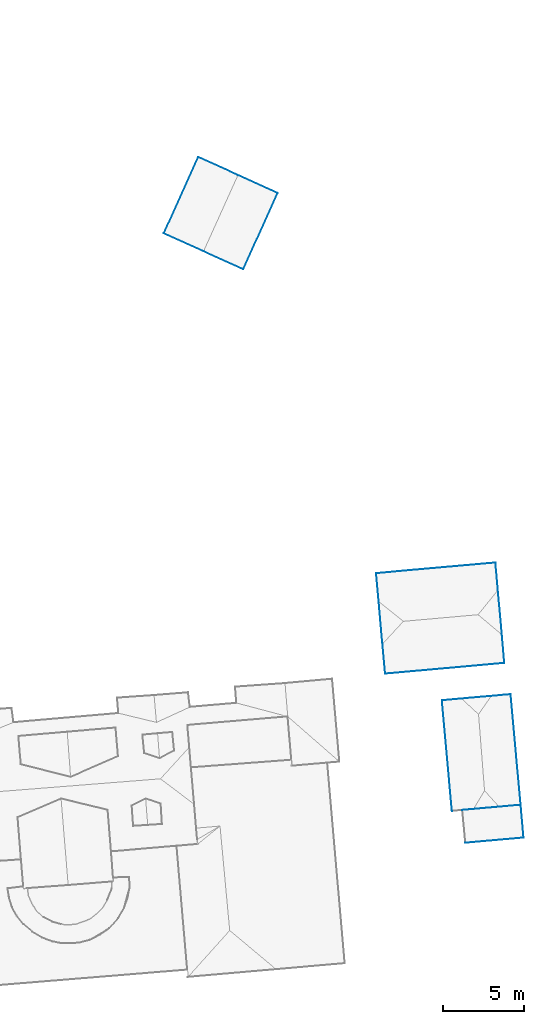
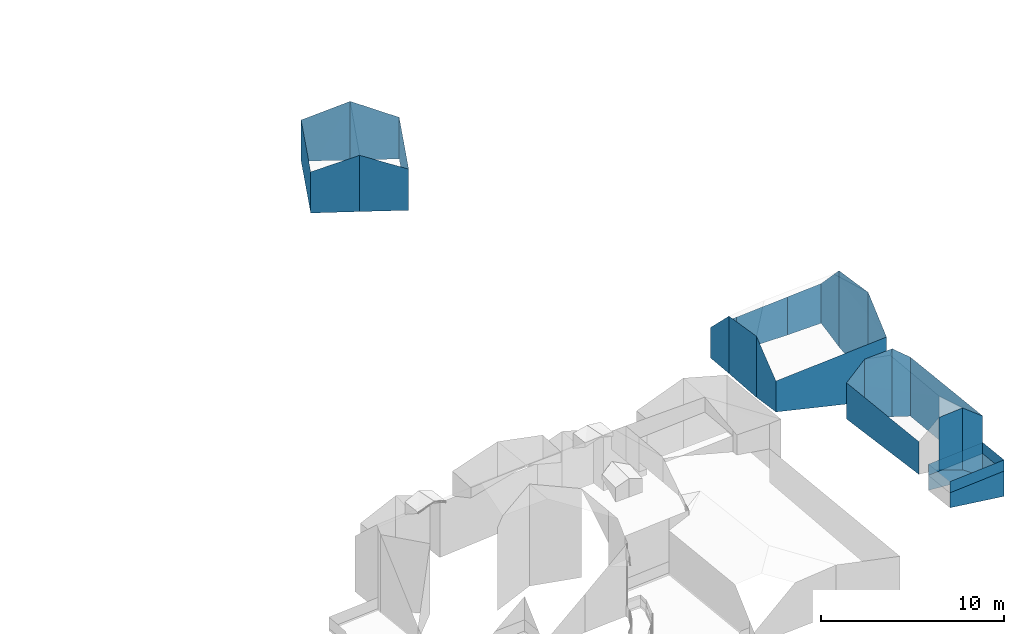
# Not in any storey, part 24 of 59: 32 walls.
"""IFC4 building model written with IfcOpenShell, lengths in metres."""

from ifc_helpers import new_model, entity, si_unit, converted_unit, origin, place, context, subcontext, project, spatial, face_set, surface_model, element, save


model = new_model("IFC4")

# Units and contexts
model_context = context("Model", 3, precision=1e-05, world=origin())
body_context = subcontext(model_context, "Body", "Model", "MODEL_VIEW")
ifc_project = project(units=[converted_unit("PLANEANGLEUNIT", "DEGREE", entity("IfcRatioMeasure", 0.0174532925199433), si_unit("PLANEANGLEUNIT", "RADIAN"), dimensions=[0, 0, 0, 0, 0, 0, 0]), si_unit("AREAUNIT", "SQUARE_METRE"), si_unit("LENGTHUNIT", "METRE")], contexts=[model_context])

# Site, building
site_placement = place(None, origin())
site = spatial("IfcSite", under=ifc_project, at=site_placement, Name="_site")
building_1_placement = place(site_placement, origin())
building_1 = spatial("IfcBuilding", under=site, at=building_1_placement, Name="_building")

# Walls
wall_1_placement = place(building_1_placement, origin())
element("IfcWall", 1, at=wall_1_placement, inside=building_1, Name="Wall", PredefinedType="NOTDEFINED", context=body_context, shape_type="SurfaceModel", body=[
    surface_model("IfcFaceBasedSurfaceModel", [(257.48, 105.311, 228.02), (257.31, 107.15, 229.95), (257.31, 107.15, 225.866), (257.48, 105.311, 225.948)], [face_set([[[0, 1, 2, 3]]])]),
])
wall_2_placement = place(building_1_placement, origin())
element("IfcWall", 2, at=wall_2_placement, inside=building_1, Name="Wall", PredefinedType="NOTDEFINED", context=body_context, shape_type="SurfaceModel", body=[
    surface_model("IfcFaceBasedSurfaceModel", [(257.31, 107.15, 229.95), (257.08, 109.77, 229.79), (257.08, 109.77, 225.959), (257.31, 107.15, 225.866)], [face_set([[[0, 1, 2, 3]]])]),
])
wall_3_placement = place(building_1_placement, origin())
element("IfcWall", 3, at=wall_3_placement, inside=building_1, Name="Wall", PredefinedType="NOTDEFINED", context=body_context, shape_type="SurfaceModel", body=[
    surface_model("IfcFaceBasedSurfaceModel", [(257.08, 109.77, 229.79), (256.92, 111.52, 228.02), (256.92, 111.52, 226.002), (257.08, 109.77, 225.959)], [face_set([[[0, 1, 2, 3]]])]),
])
wall_4_placement = place(building_1_placement, origin())
element("IfcWall", 4, at=wall_4_placement, inside=building_1, Name="Wall", PredefinedType="NOTDEFINED", context=body_context, shape_type="SurfaceModel", body=[
    surface_model("IfcFaceBasedSurfaceModel", [(264.3, 112.18, 227.98), (264.45, 110.48, 229.82), (264.45, 110.48, 224.714), (264.3, 112.18, 225.324)], [face_set([[[0, 1, 2, 3]]])]),
])
wall_5_placement = place(building_1_placement, origin())
element("IfcWall", 5, at=wall_5_placement, inside=building_1, Name="Wall", PredefinedType="NOTDEFINED", context=body_context, shape_type="SurfaceModel", body=[
    surface_model("IfcFaceBasedSurfaceModel", [(264.45, 110.48, 229.82), (264.7, 107.721, 229.95), (264.7, 107.721, 224.029), (264.45, 110.48, 224.714)], [face_set([[[0, 1, 2, 3]]])]),
])
wall_6_placement = place(building_1_placement, origin())
element("IfcWall", 6, at=wall_6_placement, inside=building_1, Name="Wall", PredefinedType="NOTDEFINED", context=body_context, shape_type="SurfaceModel", body=[
    surface_model("IfcFaceBasedSurfaceModel", [(264.7, 107.721, 229.95), (264.85, 105.971, 227.98), (264.85, 105.971, 223.793), (264.7, 107.721, 224.029)], [face_set([[[0, 1, 2, 3]]])]),
])
wall_7_placement = place(building_1_placement, origin())
element("IfcWall", 7, at=wall_7_placement, inside=building_1, Name="Wall", PredefinedType="NOTDEFINED", context=body_context, shape_type="SurfaceModel", body=[
    surface_model("IfcFaceBasedSurfaceModel", [(256.92, 111.52, 228.02), (258.66, 111.68, 228.01), (258.66, 111.68, 225.699), (256.92, 111.52, 226.002)], [face_set([[[0, 1, 2, 3]]])]),
])
wall_8_placement = place(building_1_placement, origin())
element("IfcWall", 8, at=wall_8_placement, inside=building_1, Name="Wall", PredefinedType="NOTDEFINED", context=body_context, shape_type="SurfaceModel", body=[
    surface_model("IfcFaceBasedSurfaceModel", [(258.66, 111.68, 228.01), (262.05, 111.98, 227.99), (262.05, 111.98, 225.441), (258.66, 111.68, 225.699)], [face_set([[[0, 1, 2, 3]]])]),
])
wall_9_placement = place(building_1_placement, origin())
element("IfcWall", 9, at=wall_9_placement, inside=building_1, Name="Wall", PredefinedType="NOTDEFINED", context=body_context, shape_type="SurfaceModel", body=[
    surface_model("IfcFaceBasedSurfaceModel", [(262.05, 111.98, 227.99), (264.3, 112.18, 227.98), (264.3, 112.18, 225.324), (262.05, 111.98, 225.441)], [face_set([[[0, 1, 2, 3]]])]),
])
wall_10_placement = place(building_1_placement, origin())
element("IfcWall", 10, at=wall_10_placement, inside=building_1, Name="Wall", PredefinedType="NOTDEFINED", context=body_context, shape_type="SurfaceModel", body=[
    surface_model("IfcFaceBasedSurfaceModel", [(264.85, 105.971, 227.98), (257.48, 105.311, 228.02), (257.48, 105.311, 225.948), (264.85, 105.971, 223.793)], [face_set([[[0, 1, 2, 3]]])]),
])

# Building
building_2_placement = place(site_placement, origin())
building_2 = spatial("IfcBuilding", under=site, at=building_2_placement, Name="_building")

# Walls
wall_11_placement = place(building_2_placement, origin())
element("IfcWall", 11, at=wall_11_placement, inside=building_2, Name="Wall", PredefinedType="NOTDEFINED", context=body_context, shape_type="SurfaceModel", body=[
    surface_model("IfcFaceBasedSurfaceModel", [(260.99, 103.66, 227.67), (262.2, 103.77, 228.76), (262.2, 103.77, 224.806), (260.99, 103.66, 225.248)], [face_set([[[0, 1, 2, 3]]])]),
])
wall_12_placement = place(building_2_placement, origin())
element("IfcWall", 12, at=wall_12_placement, inside=building_2, Name="Wall", PredefinedType="NOTDEFINED", context=body_context, shape_type="SurfaceModel", body=[
    surface_model("IfcFaceBasedSurfaceModel", [(264.52, 97.08, 228.75), (262.94, 96.939, 228.74), (262.94, 96.939, 225.251), (264.52, 97.08, 224.607)], [face_set([[[0, 1, 2, 3]]])]),
])
wall_13_placement = place(building_2_placement, origin())
element("IfcWall", 13, at=wall_13_placement, inside=building_2, Name="Wall", PredefinedType="NOTDEFINED", context=body_context, shape_type="SurfaceModel", body=[
    surface_model("IfcFaceBasedSurfaceModel", [(262.2, 103.77, 228.76), (264.03, 103.93, 228.72), (264.03, 103.93, 224.17), (262.2, 103.77, 224.806)], [face_set([[[0, 1, 2, 3]]])]),
])
wall_14_placement = place(building_2_placement, origin())
element("IfcWall", 14, at=wall_14_placement, inside=building_2, Name="Wall", PredefinedType="NOTDEFINED", context=body_context, shape_type="SurfaceModel", body=[
    surface_model("IfcFaceBasedSurfaceModel", [(261.61, 96.82, 227.67), (260.99, 103.66, 227.67), (260.99, 103.66, 225.248), (261.61, 96.82, 225.482)], [face_set([[[0, 1, 2, 3]]])]),
])
wall_15_placement = place(building_2_placement, origin())
element("IfcWall", 15, at=wall_15_placement, inside=building_2, Name="Wall", PredefinedType="NOTDEFINED", context=body_context, shape_type="SurfaceModel", body=[
    surface_model("IfcFaceBasedSurfaceModel", [(264.03, 103.93, 228.72), (265.24, 104.039, 227.67), (265.24, 104.039, 223.721), (264.03, 103.93, 224.17)], [face_set([[[0, 1, 2, 3]]])]),
])
wall_16_placement = place(building_2_placement, origin())
element("IfcWall", 16, at=wall_16_placement, inside=building_2, Name="Wall", PredefinedType="NOTDEFINED", context=body_context, shape_type="SurfaceModel", body=[
    surface_model("IfcFaceBasedSurfaceModel", [(265.86, 97.199, 227.67), (264.52, 97.08, 228.75), (264.52, 97.08, 224.607), (265.86, 97.199, 223.647)], [face_set([[[0, 1, 2, 3]]])]),
])
wall_17_placement = place(building_2_placement, origin())
element("IfcWall", 17, at=wall_17_placement, inside=building_2, Name="Wall", PredefinedType="NOTDEFINED", context=body_context, shape_type="SurfaceModel", body=[
    surface_model("IfcFaceBasedSurfaceModel", [(265.24, 104.039, 227.67), (265.86, 97.199, 227.67), (265.86, 97.199, 223.647), (265.24, 104.039, 223.721)], [face_set([[[0, 1, 2, 3]]])]),
])
wall_18_placement = place(building_2_placement, origin())
element("IfcWall", 18, at=wall_18_placement, inside=building_2, Name="Wall", PredefinedType="NOTDEFINED", context=body_context, shape_type="SurfaceModel", body=[
    surface_model("IfcFaceBasedSurfaceModel", [(262.25, 96.881, 225.15), (265.86, 97.199, 225.15), (265.86, 97.199, 225.9), (262.25, 96.881, 225.9)], [face_set([[[0, 1, 2, 3]]])]),
])
wall_19_placement = place(building_2_placement, origin())
element("IfcWall", 19, at=wall_19_placement, inside=building_2, Name="Wall", PredefinedType="NOTDEFINED", context=body_context, shape_type="SurfaceModel", body=[
    surface_model("IfcFaceBasedSurfaceModel", [(266.04, 95.17, 225.15), (262.44, 94.85, 225.15), (262.44, 94.85, 225.9), (266.04, 95.17, 225.9)], [face_set([[[0, 1, 2, 3]]])]),
])
wall_20_placement = place(building_2_placement, origin())
element("IfcWall", 20, at=wall_20_placement, inside=building_2, Name="Wall", PredefinedType="NOTDEFINED", context=body_context, shape_type="SurfaceModel", body=[
    surface_model("IfcFaceBasedSurfaceModel", [(265.86, 97.199, 225.15), (266.04, 95.17, 225.15), (266.04, 95.17, 225.9), (265.86, 97.199, 225.9)], [face_set([[[0, 1, 2, 3]]])]),
])
wall_21_placement = place(building_2_placement, origin())
element("IfcWall", 21, at=wall_21_placement, inside=building_2, Name="Wall", PredefinedType="NOTDEFINED", context=body_context, shape_type="SurfaceModel", body=[
    surface_model("IfcFaceBasedSurfaceModel", [(262.25, 96.881, 225.15), (265.86, 97.199, 225.15), (265.86, 97.199, 225.9), (262.25, 96.881, 225.9)], [face_set([[[0, 1, 2, 3]]])]),
])
wall_22_placement = place(building_2_placement, origin())
element("IfcWall", 22, at=wall_22_placement, inside=building_2, Name="Wall", PredefinedType="NOTDEFINED", context=body_context, shape_type="SurfaceModel", body=[
    surface_model("IfcFaceBasedSurfaceModel", [(266.04, 95.17, 225.15), (262.44, 94.85, 225.15), (262.44, 94.85, 225.9), (266.04, 95.17, 225.9)], [face_set([[[0, 1, 2, 3]]])]),
])
wall_23_placement = place(building_2_placement, origin())
element("IfcWall", 23, at=wall_23_placement, inside=building_2, Name="Wall", PredefinedType="NOTDEFINED", context=body_context, shape_type="SurfaceModel", body=[
    surface_model("IfcFaceBasedSurfaceModel", [(265.86, 97.199, 225.15), (266.04, 95.17, 225.15), (266.04, 95.17, 225.9), (265.86, 97.199, 225.9)], [face_set([[[0, 1, 2, 3]]])]),
])
wall_24_placement = place(building_2_placement, origin())
element("IfcWall", 24, at=wall_24_placement, inside=building_2, Name="Wall", PredefinedType="NOTDEFINED", context=body_context, shape_type="SurfaceModel", body=[
    surface_model("IfcFaceBasedSurfaceModel", [(262.25, 96.881, 225.15), (265.86, 97.199, 225.15), (265.86, 97.199, 223.647), (262.25, 96.881, 224.15)], [face_set([[[0, 1, 2, 3]]])]),
])
wall_25_placement = place(building_2_placement, origin())
element("IfcWall", 25, at=wall_25_placement, inside=building_2, Name="Wall", PredefinedType="NOTDEFINED", context=body_context, shape_type="SurfaceModel", body=[
    surface_model("IfcFaceBasedSurfaceModel", [(266.04, 95.17, 225.15), (262.44, 94.85, 225.15), (262.44, 94.85, 224.15), (266.04, 95.17, 223.464)], [face_set([[[0, 1, 2, 3]]])]),
])
wall_26_placement = place(building_2_placement, origin())
element("IfcWall", 26, at=wall_26_placement, inside=building_2, Name="Wall", PredefinedType="NOTDEFINED", context=body_context, shape_type="SurfaceModel", body=[
    surface_model("IfcFaceBasedSurfaceModel", [(265.86, 97.199, 225.15), (266.04, 95.17, 225.15), (266.04, 95.17, 223.464), (265.86, 97.199, 223.647)], [face_set([[[0, 1, 2, 3]]])]),
])

# Building
building_3_placement = place(site_placement, origin())
building_3 = spatial("IfcBuilding", under=site, at=building_3_placement, Name="_building")

# Walls
wall_27_placement = place(building_3_placement, origin())
element("IfcWall", 27, at=wall_27_placement, inside=building_3, Name="Wall", PredefinedType="NOTDEFINED", context=body_context, shape_type="SurfaceModel", body=[
    surface_model("IfcFaceBasedSurfaceModel", [(246.24, 131.43, 231.2), (243.79, 132.539, 230.28), (243.79, 132.539, 227.526), (246.24, 131.43, 227.438)], [face_set([[[0, 1, 2, 3]]])]),
])
wall_28_placement = place(building_3_placement, origin())
element("IfcWall", 28, at=wall_28_placement, inside=building_3, Name="Wall", PredefinedType="NOTDEFINED", context=body_context, shape_type="SurfaceModel", body=[
    surface_model("IfcFaceBasedSurfaceModel", [(248.7, 130.32, 230.09), (246.24, 131.43, 231.2), (246.24, 131.43, 227.438), (248.7, 130.32, 227.337)], [face_set([[[0, 1, 2, 3]]])]),
])
wall_29_placement = place(building_3_placement, origin())
element("IfcWall", 29, at=wall_29_placement, inside=building_3, Name="Wall", PredefinedType="NOTDEFINED", context=body_context, shape_type="SurfaceModel", body=[
    surface_model("IfcFaceBasedSurfaceModel", [(245.91, 137.26, 230.14), (248.37, 136.15, 231.2), (248.37, 136.15, 227.256), (245.91, 137.26, 227.395)], [face_set([[[0, 1, 2, 3]]])]),
])
wall_30_placement = place(building_3_placement, origin())
element("IfcWall", 30, at=wall_30_placement, inside=building_3, Name="Wall", PredefinedType="NOTDEFINED", context=body_context, shape_type="SurfaceModel", body=[
    surface_model("IfcFaceBasedSurfaceModel", [(248.37, 136.15, 231.2), (250.82, 135.029, 229.95), (250.82, 135.029, 227.173), (248.37, 136.15, 227.256)], [face_set([[[0, 1, 2, 3]]])]),
])
wall_31_placement = place(building_3_placement, origin())
element("IfcWall", 31, at=wall_31_placement, inside=building_3, Name="Wall", PredefinedType="NOTDEFINED", context=body_context, shape_type="SurfaceModel", body=[
    surface_model("IfcFaceBasedSurfaceModel", [(243.79, 132.539, 230.28), (245.91, 137.26, 230.14), (245.91, 137.26, 227.395), (243.79, 132.539, 227.526)], [face_set([[[0, 1, 2, 3]]])]),
])
wall_32_placement = place(building_3_placement, origin())
element("IfcWall", 32, at=wall_32_placement, inside=building_3, Name="Wall", PredefinedType="NOTDEFINED", context=body_context, shape_type="SurfaceModel", body=[
    surface_model("IfcFaceBasedSurfaceModel", [(250.82, 135.029, 229.95), (248.7, 130.32, 230.09), (248.7, 130.32, 227.337), (250.82, 135.029, 227.173)], [face_set([[[0, 1, 2, 3]]])]),
])

save(model, "model.ifc")
